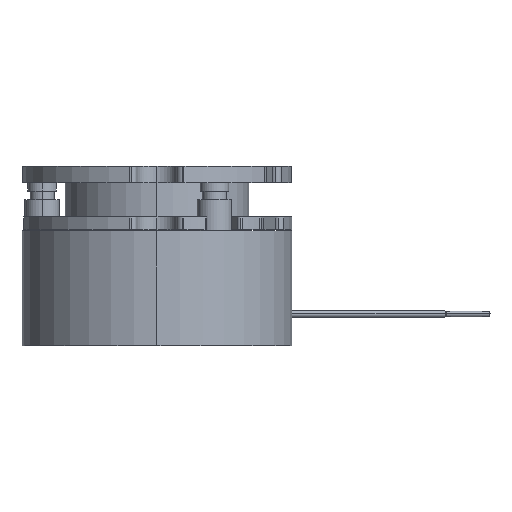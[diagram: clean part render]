
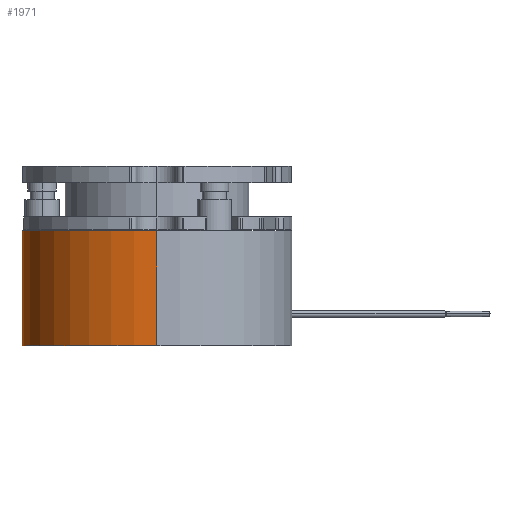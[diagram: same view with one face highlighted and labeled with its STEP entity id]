
A CAD part, left-side view. The second image highlights one B-rep face of the part: STEP entity #1971.
In plain terms, the highlighted cylindrical face has radius 23.5 mm (diameter 47 mm), a partial arc.
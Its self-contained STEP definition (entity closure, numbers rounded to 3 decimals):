
#1761 = AXIS2_PLACEMENT_3D ( 'NONE', #4000, #4001, #4002 ) ;
#1764 = AXIS2_PLACEMENT_3D ( 'NONE', #4015, #4016, #4017 ) ;
#1971 = ADVANCED_FACE ( 'NONE', ( #8236 ), #8244, .T. ) ;
#3199 = LINE ( 'NONE', #3975, #4167 ) ;
#3975 = CARTESIAN_POINT ( 'NONE',  ( -23.5, 0., 20. ) ) ;
#3976 = DIRECTION ( 'NONE',  ( 0., 0., -1. ) ) ;
#4000 = CARTESIAN_POINT ( 'NONE',  ( 0., 0., 20. ) ) ;
#4001 = DIRECTION ( 'NONE',  ( 0., 0., 1. ) ) ;
#4002 = DIRECTION ( 'NONE',  ( 1., 0., 0. ) ) ;
#4008 = CARTESIAN_POINT ( 'NONE',  ( 23.5, 0., 20. ) ) ;
#4009 = DIRECTION ( 'NONE',  ( 0., 0., -1. ) ) ;
#4015 = CARTESIAN_POINT ( 'NONE',  ( 0., 0., 0. ) ) ;
#4016 = DIRECTION ( 'NONE',  ( 0., 0., 1. ) ) ;
#4017 = DIRECTION ( 'NONE',  ( 1., 0., 0. ) ) ;
#4167 = VECTOR ( 'NONE', #3976, 1000. ) ;
#4170 = CIRCLE ( 'NONE', #1761, 23.5 ) ;
#4184 = LINE ( 'NONE', #4008, #4187 ) ;
#4187 = VECTOR ( 'NONE', #4009, 1000. ) ;
#4188 = CIRCLE ( 'NONE', #1764, 23.5 ) ;
#5734 = CARTESIAN_POINT ( 'NONE',  ( 0., 0., 20. ) ) ;
#5735 = DIRECTION ( 'NONE',  ( 0., 0., -1. ) ) ;
#5743 = DIRECTION ( 'NONE',  ( -1., 0., 0. ) ) ;
#6389 = VERTEX_POINT ( 'NONE', #11563 ) ;
#6414 = VERTEX_POINT ( 'NONE', #11585 ) ;
#6431 = VERTEX_POINT ( 'NONE', #9920 ) ;
#6478 = EDGE_LOOP ( 'NONE', ( #9243, #8957, #8908, #9267 ) ) ;
#7250 = VERTEX_POINT ( 'NONE', #10026 ) ;
#8236 = FACE_OUTER_BOUND ( 'NONE', #6478, .T. ) ;
#8244 = CYLINDRICAL_SURFACE ( 'NONE', #11798, 23.5 ) ;
#8908 = ORIENTED_EDGE ( 'NONE', *, *, #9555, .T. ) ;
#8957 = ORIENTED_EDGE ( 'NONE', *, *, #9553, .T. ) ;
#9243 = ORIENTED_EDGE ( 'NONE', *, *, #9548, .F. ) ;
#9267 = ORIENTED_EDGE ( 'NONE', *, *, #9542, .F. ) ;
#9542 = EDGE_CURVE ( 'NONE', #6389, #6414, #3199, .T. ) ;
#9548 = EDGE_CURVE ( 'NONE', #7250, #6389, #4170, .T. ) ;
#9553 = EDGE_CURVE ( 'NONE', #7250, #6431, #4184, .T. ) ;
#9555 = EDGE_CURVE ( 'NONE', #6431, #6414, #4188, .T. ) ;
#9920 = CARTESIAN_POINT ( 'NONE',  ( 23.5, 0., 0. ) ) ;
#10026 = CARTESIAN_POINT ( 'NONE',  ( 23.5, 0., 20. ) ) ;
#11563 = CARTESIAN_POINT ( 'NONE',  ( -23.5, 0., 20. ) ) ;
#11585 = CARTESIAN_POINT ( 'NONE',  ( -23.5, 0., 0. ) ) ;
#11798 = AXIS2_PLACEMENT_3D ( 'NONE', #5734, #5735, #5743 ) ;
